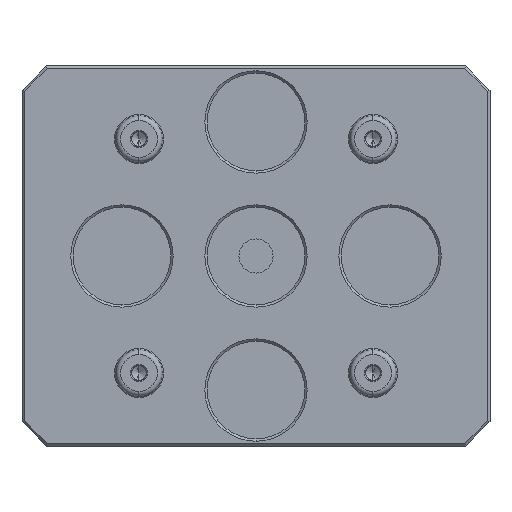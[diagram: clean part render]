
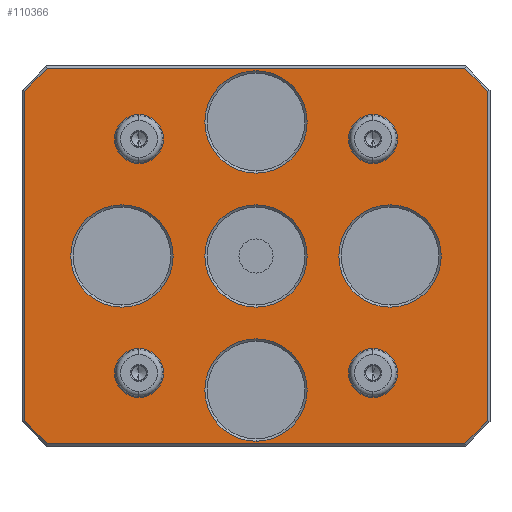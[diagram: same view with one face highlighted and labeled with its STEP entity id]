
A CAD part, front view. The second image highlights one B-rep face of the part: STEP entity #110366.
In plain terms, the highlighted planar face has unit normal (0, -1, 0).
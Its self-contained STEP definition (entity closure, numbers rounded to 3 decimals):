
#103606=DIRECTION('',(0.,0.,1.));
#103607=VECTOR('',#103606,135.172);
#103608=CARTESIAN_POINT('',(-95.,0.,-67.586));
#103609=LINE('',#103608,#103607);
#103622=DIRECTION('',(0.707,0.,0.707));
#103623=VECTOR('',#103622,13.314);
#103624=CARTESIAN_POINT('',(85.586,0.,-77.));
#103625=LINE('',#103624,#103623);
#103626=DIRECTION('',(0.707,0.,-0.707));
#103627=VECTOR('',#103626,13.314);
#103628=CARTESIAN_POINT('',(-95.,0.,-67.586));
#103629=LINE('',#103628,#103627);
#103630=DIRECTION('',(-0.707,0.,-0.707));
#103631=VECTOR('',#103630,13.314);
#103632=CARTESIAN_POINT('',(-85.586,0.,77.));
#103633=LINE('',#103632,#103631);
#103634=DIRECTION('',(-0.707,0.,0.707));
#103635=VECTOR('',#103634,13.314);
#103636=CARTESIAN_POINT('',(95.,0.,67.586));
#103637=LINE('',#103636,#103635);
#103638=CARTESIAN_POINT('',(48.,0.,48.));
#103639=DIRECTION('',(0.,1.,0.));
#103640=DIRECTION('',(0.,0.,-1.));
#103641=AXIS2_PLACEMENT_3D('',#103638,#103639,#103640);
#103643=CARTESIAN_POINT('',(48.,0.,48.));
#103644=DIRECTION('',(0.,1.,0.));
#103645=DIRECTION('',(0.,0.,1.));
#103646=AXIS2_PLACEMENT_3D('',#103643,#103644,#103645);
#103648=CARTESIAN_POINT('',(48.,0.,-48.));
#103649=DIRECTION('',(0.,1.,0.));
#103650=DIRECTION('',(0.,0.,-1.));
#103651=AXIS2_PLACEMENT_3D('',#103648,#103649,#103650);
#103653=CARTESIAN_POINT('',(48.,0.,-48.));
#103654=DIRECTION('',(0.,1.,0.));
#103655=DIRECTION('',(0.,0.,1.));
#103656=AXIS2_PLACEMENT_3D('',#103653,#103654,#103655);
#103658=CARTESIAN_POINT('',(-48.,0.,-48.));
#103659=DIRECTION('',(0.,1.,0.));
#103660=DIRECTION('',(0.,0.,-1.));
#103661=AXIS2_PLACEMENT_3D('',#103658,#103659,#103660);
#103663=CARTESIAN_POINT('',(-48.,0.,-48.));
#103664=DIRECTION('',(0.,1.,0.));
#103665=DIRECTION('',(0.,0.,1.));
#103666=AXIS2_PLACEMENT_3D('',#103663,#103664,#103665);
#103668=CARTESIAN_POINT('',(-48.,0.,48.));
#103669=DIRECTION('',(0.,1.,0.));
#103670=DIRECTION('',(0.,0.,-1.));
#103671=AXIS2_PLACEMENT_3D('',#103668,#103669,#103670);
#103673=CARTESIAN_POINT('',(-48.,0.,48.));
#103674=DIRECTION('',(0.,1.,0.));
#103675=DIRECTION('',(0.,0.,1.));
#103676=AXIS2_PLACEMENT_3D('',#103673,#103674,#103675);
#103678=CARTESIAN_POINT('',(55.,0.,0.));
#103679=DIRECTION('',(0.,1.,0.));
#103680=DIRECTION('',(0.,0.,-1.));
#103681=AXIS2_PLACEMENT_3D('',#103678,#103679,#103680);
#103683=CARTESIAN_POINT('',(55.,0.,0.));
#103684=DIRECTION('',(0.,1.,0.));
#103685=DIRECTION('',(0.,0.,1.));
#103686=AXIS2_PLACEMENT_3D('',#103683,#103684,#103685);
#103688=CARTESIAN_POINT('',(0.,0.,0.));
#103689=DIRECTION('',(0.,1.,0.));
#103690=DIRECTION('',(0.,0.,-1.));
#103691=AXIS2_PLACEMENT_3D('',#103688,#103689,#103690);
#103693=CARTESIAN_POINT('',(0.,0.,0.));
#103694=DIRECTION('',(0.,1.,0.));
#103695=DIRECTION('',(0.,0.,1.));
#103696=AXIS2_PLACEMENT_3D('',#103693,#103694,#103695);
#103698=CARTESIAN_POINT('',(0.,0.,-55.));
#103699=DIRECTION('',(0.,1.,0.));
#103700=DIRECTION('',(0.,0.,-1.));
#103701=AXIS2_PLACEMENT_3D('',#103698,#103699,#103700);
#103703=CARTESIAN_POINT('',(0.,0.,-55.));
#103704=DIRECTION('',(0.,1.,0.));
#103705=DIRECTION('',(0.,0.,1.));
#103706=AXIS2_PLACEMENT_3D('',#103703,#103704,#103705);
#103708=CARTESIAN_POINT('',(-55.,0.,0.));
#103709=DIRECTION('',(0.,1.,0.));
#103710=DIRECTION('',(0.,0.,-1.));
#103711=AXIS2_PLACEMENT_3D('',#103708,#103709,#103710);
#103713=CARTESIAN_POINT('',(-55.,0.,0.));
#103714=DIRECTION('',(0.,1.,0.));
#103715=DIRECTION('',(0.,0.,1.));
#103716=AXIS2_PLACEMENT_3D('',#103713,#103714,#103715);
#103718=CARTESIAN_POINT('',(0.,0.,55.));
#103719=DIRECTION('',(0.,1.,0.));
#103720=DIRECTION('',(0.,0.,-1.));
#103721=AXIS2_PLACEMENT_3D('',#103718,#103719,#103720);
#103723=CARTESIAN_POINT('',(0.,0.,55.));
#103724=DIRECTION('',(0.,1.,0.));
#103725=DIRECTION('',(0.,0.,1.));
#103726=AXIS2_PLACEMENT_3D('',#103723,#103724,#103725);
#103728=DIRECTION('',(0.,0.,-1.));
#103729=VECTOR('',#103728,135.172);
#103730=CARTESIAN_POINT('',(95.,0.,67.586));
#103731=LINE('',#103730,#103729);
#103748=DIRECTION('',(-1.,0.,0.));
#103749=VECTOR('',#103748,171.172);
#103750=CARTESIAN_POINT('',(85.586,0.,-77.));
#103751=LINE('',#103750,#103749);
#103772=DIRECTION('',(1.,0.,0.));
#103773=VECTOR('',#103772,171.172);
#103774=CARTESIAN_POINT('',(-85.586,0.,77.));
#103775=LINE('',#103774,#103773);
#106793=CARTESIAN_POINT('',(0.,0.,21.));
#106795=VERTEX_POINT('',#106793);
#106821=CARTESIAN_POINT('',(-95.,0.,-67.586));
#106822=CARTESIAN_POINT('',(-95.,0.,67.586));
#106823=VERTEX_POINT('',#106821);
#106824=VERTEX_POINT('',#106822);
#106959=CARTESIAN_POINT('',(0.,0.,34.));
#106961=VERTEX_POINT('',#106959);
#107020=CARTESIAN_POINT('',(48.,0.,39.5));
#107021=CARTESIAN_POINT('',(48.,0.,56.5));
#107022=VERTEX_POINT('',#107020);
#107023=VERTEX_POINT('',#107021);
#107040=CARTESIAN_POINT('',(95.,0.,67.586));
#107041=CARTESIAN_POINT('',(95.,0.,-67.586));
#107042=VERTEX_POINT('',#107040);
#107043=VERTEX_POINT('',#107041);
#107099=CARTESIAN_POINT('',(48.,0.,-39.5));
#107101=VERTEX_POINT('',#107099);
#107282=CARTESIAN_POINT('',(85.586,0.,77.));
#107283=VERTEX_POINT('',#107282);
#107304=CARTESIAN_POINT('',(-85.586,0.,77.));
#107305=VERTEX_POINT('',#107304);
#107330=CARTESIAN_POINT('',(0.,0.,-21.));
#107331=VERTEX_POINT('',#107330);
#107441=CARTESIAN_POINT('',(-85.586,0.,-77.));
#107443=VERTEX_POINT('',#107441);
#107611=CARTESIAN_POINT('',(0.,0.,76.));
#107612=VERTEX_POINT('',#107611);
#107613=CARTESIAN_POINT('',(-55.,0.,21.));
#107614=VERTEX_POINT('',#107613);
#107735=CARTESIAN_POINT('',(0.,0.,-76.));
#107736=CARTESIAN_POINT('',(0.,0.,-34.));
#107737=VERTEX_POINT('',#107735);
#107738=VERTEX_POINT('',#107736);
#107754=CARTESIAN_POINT('',(-48.,0.,-39.5));
#107755=CARTESIAN_POINT('',(-48.,0.,-56.5));
#107756=VERTEX_POINT('',#107754);
#107757=VERTEX_POINT('',#107755);
#107758=CARTESIAN_POINT('',(-55.,0.,-21.));
#107759=VERTEX_POINT('',#107758);
#107791=CARTESIAN_POINT('',(48.,0.,-56.5));
#107792=VERTEX_POINT('',#107791);
#107813=CARTESIAN_POINT('',(55.,0.,-21.));
#107814=VERTEX_POINT('',#107813);
#107819=CARTESIAN_POINT('',(-48.,0.,56.5));
#107820=CARTESIAN_POINT('',(-48.,0.,39.5));
#107821=VERTEX_POINT('',#107819);
#107822=VERTEX_POINT('',#107820);
#107841=CARTESIAN_POINT('',(55.,0.,21.));
#107842=VERTEX_POINT('',#107841);
#107847=CARTESIAN_POINT('',(85.586,0.,-77.));
#107848=VERTEX_POINT('',#107847);
#110292=CARTESIAN_POINT('',(0.,0.,0.));
#110293=DIRECTION('',(0.,-1.,0.));
#110294=DIRECTION('',(0.,0.,-1.));
#110295=AXIS2_PLACEMENT_3D('',#110292,#110293,#110294);
#110296=PLANE('',#110295);
#110298=ORIENTED_EDGE('',*,*,#110297,.T.);
#110300=ORIENTED_EDGE('',*,*,#110299,.F.);
#110302=ORIENTED_EDGE('',*,*,#110301,.T.);
#110303=ORIENTED_EDGE('',*,*,#110284,.F.);
#110304=ORIENTED_EDGE('',*,*,#110273,.T.);
#110305=ORIENTED_EDGE('',*,*,#110259,.F.);
#110307=ORIENTED_EDGE('',*,*,#110306,.T.);
#110309=ORIENTED_EDGE('',*,*,#110308,.F.);
#110310=EDGE_LOOP('',(#110298,#110300,#110302,#110303,#110304,#110305,#110307,
#110309));
#110311=FACE_OUTER_BOUND('',#110310,.F.);
#110313=ORIENTED_EDGE('',*,*,#110312,.F.);
#110315=ORIENTED_EDGE('',*,*,#110314,.F.);
#110316=EDGE_LOOP('',(#110313,#110315));
#110317=FACE_BOUND('',#110316,.F.);
#110319=ORIENTED_EDGE('',*,*,#110318,.F.);
#110321=ORIENTED_EDGE('',*,*,#110320,.F.);
#110322=EDGE_LOOP('',(#110319,#110321));
#110323=FACE_BOUND('',#110322,.F.);
#110325=ORIENTED_EDGE('',*,*,#110324,.F.);
#110327=ORIENTED_EDGE('',*,*,#110326,.F.);
#110328=EDGE_LOOP('',(#110325,#110327));
#110329=FACE_BOUND('',#110328,.F.);
#110331=ORIENTED_EDGE('',*,*,#110330,.F.);
#110333=ORIENTED_EDGE('',*,*,#110332,.F.);
#110334=EDGE_LOOP('',(#110331,#110333));
#110335=FACE_BOUND('',#110334,.F.);
#110337=ORIENTED_EDGE('',*,*,#110336,.F.);
#110339=ORIENTED_EDGE('',*,*,#110338,.F.);
#110340=EDGE_LOOP('',(#110337,#110339));
#110341=FACE_BOUND('',#110340,.F.);
#110343=ORIENTED_EDGE('',*,*,#110342,.F.);
#110345=ORIENTED_EDGE('',*,*,#110344,.F.);
#110346=EDGE_LOOP('',(#110343,#110345));
#110347=FACE_BOUND('',#110346,.F.);
#110349=ORIENTED_EDGE('',*,*,#110348,.F.);
#110351=ORIENTED_EDGE('',*,*,#110350,.F.);
#110352=EDGE_LOOP('',(#110349,#110351));
#110353=FACE_BOUND('',#110352,.F.);
#110355=ORIENTED_EDGE('',*,*,#110354,.F.);
#110357=ORIENTED_EDGE('',*,*,#110356,.F.);
#110358=EDGE_LOOP('',(#110355,#110357));
#110359=FACE_BOUND('',#110358,.F.);
#110361=ORIENTED_EDGE('',*,*,#110360,.F.);
#110363=ORIENTED_EDGE('',*,*,#110362,.F.);
#110364=EDGE_LOOP('',(#110361,#110363));
#110365=FACE_BOUND('',#110364,.F.);
#110366=ADVANCED_FACE('',(#110311,#110317,#110323,#110329,#110335,#110341,
#110347,#110353,#110359,#110365),#110296,.T.);
#103642=CIRCLE('',#103641,8.5);
#103647=CIRCLE('',#103646,8.5);
#103652=CIRCLE('',#103651,8.5);
#103657=CIRCLE('',#103656,8.5);
#103662=CIRCLE('',#103661,8.5);
#103667=CIRCLE('',#103666,8.5);
#103672=CIRCLE('',#103671,8.5);
#103677=CIRCLE('',#103676,8.5);
#103682=CIRCLE('',#103681,21.);
#103687=CIRCLE('',#103686,21.);
#103692=CIRCLE('',#103691,21.);
#103697=CIRCLE('',#103696,21.);
#103702=CIRCLE('',#103701,21.);
#103707=CIRCLE('',#103706,21.);
#103712=CIRCLE('',#103711,21.);
#103717=CIRCLE('',#103716,21.);
#103722=CIRCLE('',#103721,21.);
#103727=CIRCLE('',#103726,21.);
#110259=EDGE_CURVE('',#107305,#106824,#103633,.T.);
#110273=EDGE_CURVE('',#106823,#106824,#103609,.T.);
#110284=EDGE_CURVE('',#106823,#107443,#103629,.T.);
#110297=EDGE_CURVE('',#107042,#107043,#103731,.T.);
#110299=EDGE_CURVE('',#107848,#107043,#103625,.T.);
#110301=EDGE_CURVE('',#107848,#107443,#103751,.T.);
#110306=EDGE_CURVE('',#107305,#107283,#103775,.T.);
#110308=EDGE_CURVE('',#107042,#107283,#103637,.T.);
#110312=EDGE_CURVE('',#107022,#107023,#103642,.T.);
#110314=EDGE_CURVE('',#107023,#107022,#103647,.T.);
#110318=EDGE_CURVE('',#107792,#107101,#103652,.T.);
#110320=EDGE_CURVE('',#107101,#107792,#103657,.T.);
#110324=EDGE_CURVE('',#107757,#107756,#103662,.T.);
#110326=EDGE_CURVE('',#107756,#107757,#103667,.T.);
#110330=EDGE_CURVE('',#107822,#107821,#103672,.T.);
#110332=EDGE_CURVE('',#107821,#107822,#103677,.T.);
#110336=EDGE_CURVE('',#107814,#107842,#103682,.T.);
#110338=EDGE_CURVE('',#107842,#107814,#103687,.T.);
#110342=EDGE_CURVE('',#107331,#106795,#103692,.T.);
#110344=EDGE_CURVE('',#106795,#107331,#103697,.T.);
#110348=EDGE_CURVE('',#107737,#107738,#103702,.T.);
#110350=EDGE_CURVE('',#107738,#107737,#103707,.T.);
#110354=EDGE_CURVE('',#107759,#107614,#103712,.T.);
#110356=EDGE_CURVE('',#107614,#107759,#103717,.T.);
#110360=EDGE_CURVE('',#106961,#107612,#103722,.T.);
#110362=EDGE_CURVE('',#107612,#106961,#103727,.T.);
